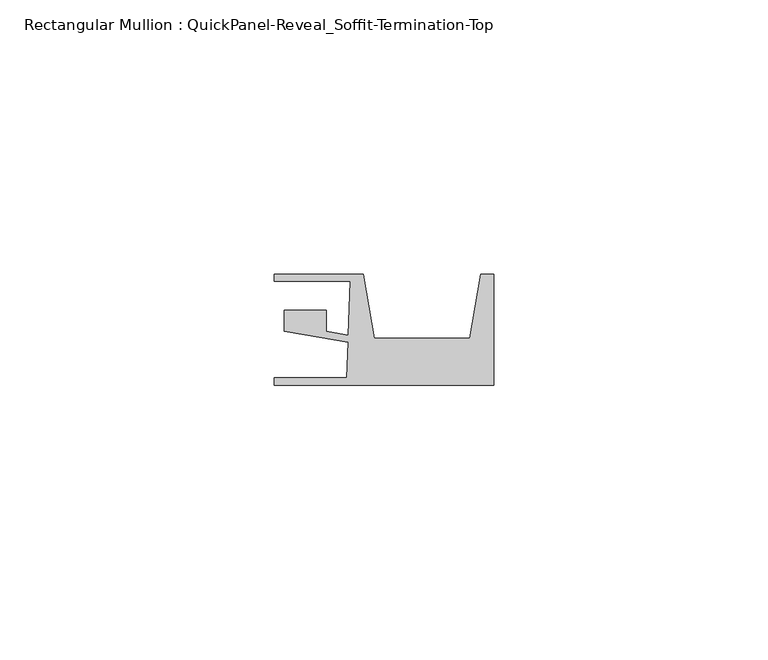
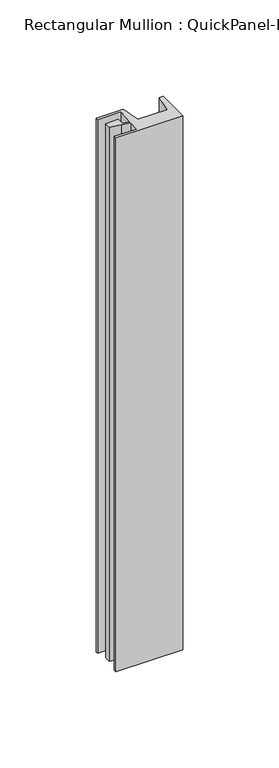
"""IFC4 building model written with IfcOpenShell, lengths in millimetres: member geometry, Rectangular Mullion : QuickPanel-Reveal_Soffit-Termination-Top."""

from ifc_helpers import new_model, si_unit, frame, origin, place, context, project, spatial, polyline, outline, extrude, source, transform, mapped, element, save


def rectangular_mullion_quickpanel_reveal_soffit_termination_top_7992bf26(model_context):
    return source(origin(), model_context, "Body", "SweptSolid", [
        extrude(outline(polyline([(-40.0272216, -8.095605), (-40.0272216, -6.6935423), (-26.7863089, -6.6935423), (-26.5595237, -0.1992641), (-31.8098046, 0.7008023), (-38.2451373, 1.8040245), (-38.2451373, 5.6493034), (-30.5003642, 5.6493034), (-30.5003642, 1.7648465), (-26.5147952, 1.0815922), (-26.1708682, 10.9303752), (-40.0272216, 10.9303752), (-40.0272216, 12.1803727), (-23.8142192, 12.1803727), (-21.8189903, 0.5417732), (-4.3518779, 0.5417732), (-2.3566489, 12.1803727), (0.0, 12.1803727), (0.0, -8.095605), (-40.0272216, -8.095605)])), frame((0.0, 0.0, -338.388579), z_axis=(0.0, 0.0, 1.0), x_axis=(1.0, 0.0, 0.0)), (0.0, 0.0, 1.0), 338.388579),
    ])


if __name__ == "__main__":
    model = new_model("IFC4")
    model_context = context("Model", 3, world=origin())
    ifc_project = project(units=[si_unit("LENGTHUNIT", "METRE", prefix="MILLI")], contexts=[model_context])
    site = spatial("IfcSite", under=ifc_project)
    building = spatial("IfcBuilding", under=site)
    placement = place(None, origin())
    rectangular_mullion_quickpanel_reveal_soffit_termination_top_shape = rectangular_mullion_quickpanel_reveal_soffit_termination_top_7992bf26(model_context)
    element("IfcMember", 1, ObjectType="Rectangular Mullion : QuickPanel-Reveal_Soffit-Termination-Top", at=placement, inside=building, context=model_context, shape_type="MappedRepresentation", body=[
        mapped(rectangular_mullion_quickpanel_reveal_soffit_termination_top_shape, transform((0.0, 0.0, 0.0), x_axis=(1.0, 0.0, 0.0), y_axis=(0.0, 1.0, 0.0), z_axis=(0.0, 0.0, 1.0))),
    ])
    save(model, "model.ifc")
